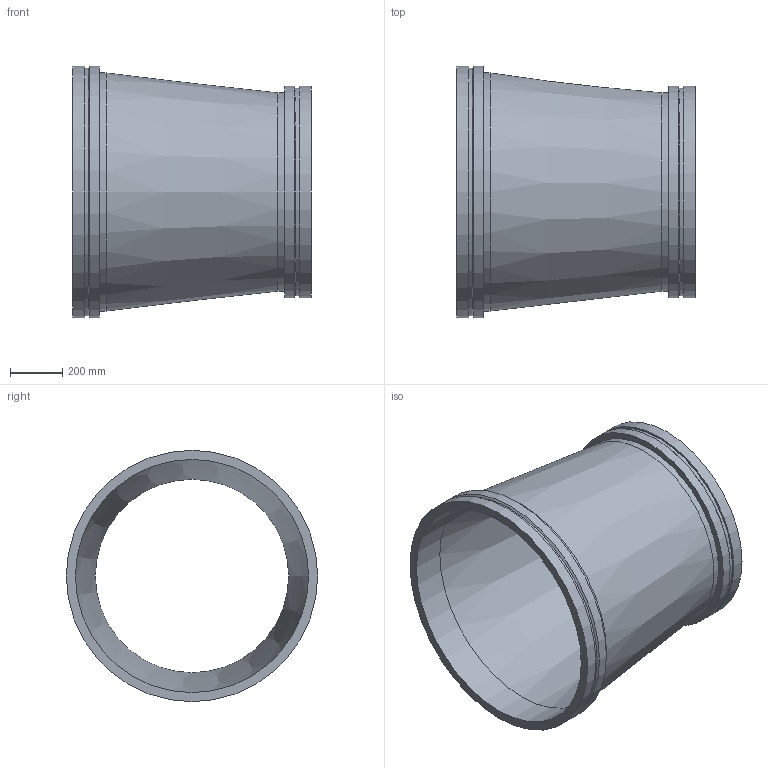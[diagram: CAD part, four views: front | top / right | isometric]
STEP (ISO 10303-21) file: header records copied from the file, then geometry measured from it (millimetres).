
FILE_DESCRIPTION(/* description */ ('VIC REDUCER CONCENTRIC No W50 VR','CAx-IF Rec.Pracs.---Representation and Presentation of Product Manufacturing Information (PMI)---4.0---2014-10-13'),/* implementation_level */ '2;1');
FILE_NAME(/* name */ 'C:\Users\kkamble\AppData\Roaming\Autodesk\ApplicationPlugins\Back Up\Victaulic_Vic-Ring_Reducer Concentric_No W50 VR (AGR)\Victaulic_Vic-Ring_Reducer Concentric_No W50 VR (AGR)_36.0x30.0 (900x750).stp',/* time_stamp */ '2020-09-10T11:47:09+05:00',/* author */ ('cps_temp'),/* organization */ ('Victaulic'),/* preprocessor_version */ 'ST-DEVELOPER v17.2',/* originating_system */ 'Autodesk Inventor 2019',/* authorisation */ '');
FILE_SCHEMA (('AP242_MANAGED_MODEL_BASED_3D_ENGINEERING_MIM_LF { 1 0 10303 442 1 1 4 }'));
Length unit declared in the file: inch
Products named in the file (1): W50 VR-36.0x30.0
Bounding box: 914.4 x 965.2 x 965.2 mm (x, y, z)
Volume: 36010196.3 mm3; surface area: 5198804.8 mm2
Topology: 1 solids, 1 shells, 20 faces, 54 edges, 40 vertices
Faces by surface type: cylinder 10, plane 6, cone 4
Full cylindrical faces by diameter (mm): 742.95 x1, 762 x1, 798.322 x1, 812.8 x2, 895.35 x1, 914.4 x1, 950.722 x1, 965.2 x2
Entity records: 830 total; most frequent: DIRECTION 162, CARTESIAN_POINT 132, ORIENTED_EDGE 108, AXIS2_PLACEMENT_3D 74, EDGE_CURVE 54, CIRCLE 40, VERTEX_POINT 40, EDGE_LOOP 26
